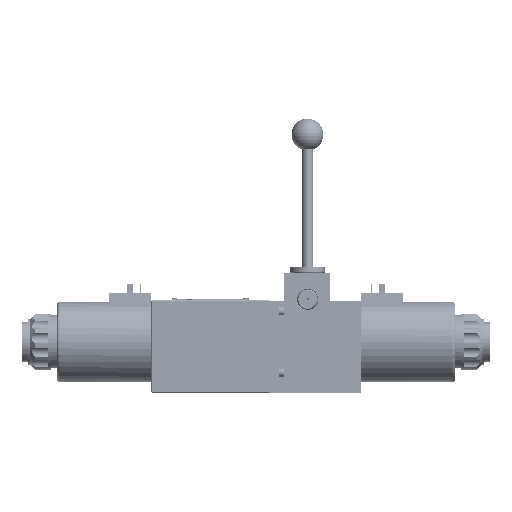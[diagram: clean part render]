
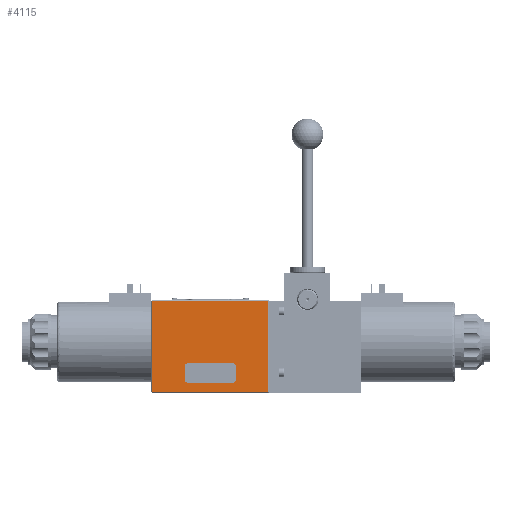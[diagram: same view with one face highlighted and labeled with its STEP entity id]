
A CAD part, front view. The second image highlights one B-rep face of the part: STEP entity #4115.
In plain terms, the highlighted planar face has unit normal (0, -1, 0).
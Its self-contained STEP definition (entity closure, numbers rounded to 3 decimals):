
#3250=FACE_BOUND('',#6678,.T.);
#3251=FACE_BOUND('',#6679,.T.);
#4115=ADVANCED_FACE('',(#3250,#3251),#4981,.T.);
#4981=PLANE('',#19853);
#6678=EDGE_LOOP('',(#9693,#9694,#9695,#9696));
#6679=EDGE_LOOP('',(#9697,#9698,#9699,#9700,#9701,#9702,#9703,#9704));
#7761=CIRCLE('',#19849,2.);
#7762=CIRCLE('',#19850,2.);
#7763=CIRCLE('',#19851,2.);
#7764=CIRCLE('',#19852,2.);
#9693=ORIENTED_EDGE('',*,*,#15274,.T.);
#9694=ORIENTED_EDGE('',*,*,#15275,.T.);
#9695=ORIENTED_EDGE('',*,*,#15276,.T.);
#9696=ORIENTED_EDGE('',*,*,#15277,.T.);
#9697=ORIENTED_EDGE('',*,*,#15278,.F.);
#9698=ORIENTED_EDGE('',*,*,#15279,.F.);
#9699=ORIENTED_EDGE('',*,*,#15280,.F.);
#9700=ORIENTED_EDGE('',*,*,#15281,.F.);
#9701=ORIENTED_EDGE('',*,*,#15282,.F.);
#9702=ORIENTED_EDGE('',*,*,#15283,.F.);
#9703=ORIENTED_EDGE('',*,*,#15284,.F.);
#9704=ORIENTED_EDGE('',*,*,#15285,.F.);
#13462=VERTEX_POINT('',#65845);
#13463=VERTEX_POINT('',#65846);
#13464=VERTEX_POINT('',#65848);
#13465=VERTEX_POINT('',#65850);
#13466=VERTEX_POINT('',#65853);
#13467=VERTEX_POINT('',#65854);
#13468=VERTEX_POINT('',#65856);
#13469=VERTEX_POINT('',#65858);
#13470=VERTEX_POINT('',#65860);
#13471=VERTEX_POINT('',#65862);
#13472=VERTEX_POINT('',#65864);
#13473=VERTEX_POINT('',#65866);
#15274=EDGE_CURVE('',#13462,#13463,#17121,.T.);
#15275=EDGE_CURVE('',#13463,#13464,#17122,.T.);
#15276=EDGE_CURVE('',#13464,#13465,#17123,.T.);
#15277=EDGE_CURVE('',#13465,#13462,#17124,.T.);
#15278=EDGE_CURVE('',#13466,#13467,#17125,.T.);
#15279=EDGE_CURVE('',#13468,#13466,#7761,.T.);
#15280=EDGE_CURVE('',#13469,#13468,#17126,.T.);
#15281=EDGE_CURVE('',#13470,#13469,#7762,.T.);
#15282=EDGE_CURVE('',#13471,#13470,#17127,.T.);
#15283=EDGE_CURVE('',#13472,#13471,#7763,.T.);
#15284=EDGE_CURVE('',#13473,#13472,#17128,.T.);
#15285=EDGE_CURVE('',#13467,#13473,#7764,.T.);
#17121=LINE('',#65844,#18439);
#17122=LINE('',#65847,#18440);
#17123=LINE('',#65849,#18441);
#17124=LINE('',#65851,#18442);
#17125=LINE('',#65852,#18443);
#17126=LINE('',#65857,#18444);
#17127=LINE('',#65861,#18445);
#17128=LINE('',#65865,#18446);
#18439=VECTOR('',#22447,1.);
#18440=VECTOR('',#22448,1.);
#18441=VECTOR('',#22449,1.);
#18442=VECTOR('',#22450,1.);
#18443=VECTOR('',#22451,1.);
#18444=VECTOR('',#22454,1.);
#18445=VECTOR('',#22457,1.);
#18446=VECTOR('',#22460,1.);
#19849=AXIS2_PLACEMENT_3D('',#65855,#22452,#22453);
#19850=AXIS2_PLACEMENT_3D('',#65859,#22455,#22456);
#19851=AXIS2_PLACEMENT_3D('',#65863,#22458,#22459);
#19852=AXIS2_PLACEMENT_3D('',#65867,#22461,#22462);
#19853=AXIS2_PLACEMENT_3D('',#65868,#22463,#22464);
#22447=DIRECTION('',(0.,0.,1.));
#22448=DIRECTION('',(-1.,0.,0.));
#22449=DIRECTION('',(0.,0.,-1.));
#22450=DIRECTION('',(1.,0.,0.));
#22451=DIRECTION('',(1.,0.,0.));
#22452=DIRECTION('',(0.,-1.,0.));
#22453=DIRECTION('',(0.,0.,-1.));
#22454=DIRECTION('',(0.,0.,-1.));
#22455=DIRECTION('',(0.,-1.,0.));
#22456=DIRECTION('',(0.,0.,-1.));
#22457=DIRECTION('',(-1.,0.,0.));
#22458=DIRECTION('',(0.,-1.,0.));
#22459=DIRECTION('',(0.,0.,-1.));
#22460=DIRECTION('',(0.,0.,1.));
#22461=DIRECTION('',(0.,-1.,0.));
#22462=DIRECTION('',(0.,0.,-1.));
#22463=DIRECTION('',(0.,-1.,0.));
#22464=DIRECTION('',(0.,0.,1.));
#65844=CARTESIAN_POINT('',(89.5,0.,-72.5));
#65845=CARTESIAN_POINT('',(89.5,0.,-71.8));
#65846=CARTESIAN_POINT('',(89.5,0.,-0.7));
#65847=CARTESIAN_POINT('',(-2.2,0.,-0.7));
#65848=CARTESIAN_POINT('',(-1.5,0.,-0.7));
#65849=CARTESIAN_POINT('',(-1.5,0.,-72.5));
#65850=CARTESIAN_POINT('',(-1.5,0.,-71.8));
#65851=CARTESIAN_POINT('',(90.2,0.,-71.8));
#65852=CARTESIAN_POINT('',(-2.2,0.,-64.5));
#65853=CARTESIAN_POINT('',(26.,0.,-64.5));
#65854=CARTESIAN_POINT('',(62.,0.,-64.5));
#65855=CARTESIAN_POINT('',(26.,0.,-62.5));
#65856=CARTESIAN_POINT('',(24.,0.,-62.5));
#65857=CARTESIAN_POINT('',(24.,0.,-72.5));
#65858=CARTESIAN_POINT('',(24.,0.,-51.5));
#65859=CARTESIAN_POINT('',(26.,0.,-51.5));
#65860=CARTESIAN_POINT('',(26.,0.,-49.5));
#65861=CARTESIAN_POINT('',(-2.2,0.,-49.5));
#65862=CARTESIAN_POINT('',(62.,0.,-49.5));
#65863=CARTESIAN_POINT('',(62.,0.,-51.5));
#65864=CARTESIAN_POINT('',(64.,0.,-51.5));
#65865=CARTESIAN_POINT('',(64.,0.,-72.5));
#65866=CARTESIAN_POINT('',(64.,0.,-62.5));
#65867=CARTESIAN_POINT('',(62.,0.,-62.5));
#65868=CARTESIAN_POINT('',(-2.2,0.,-72.5));
